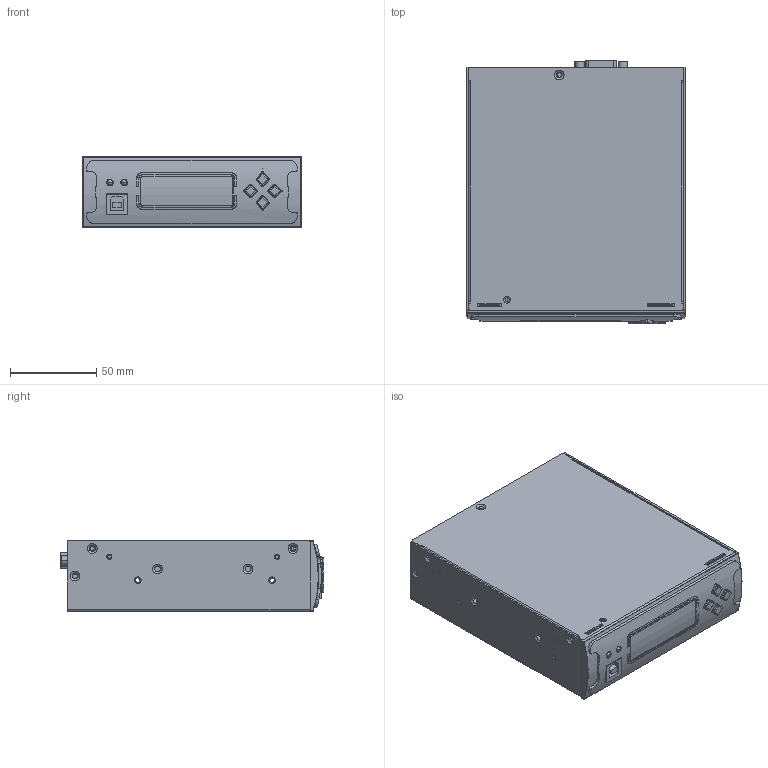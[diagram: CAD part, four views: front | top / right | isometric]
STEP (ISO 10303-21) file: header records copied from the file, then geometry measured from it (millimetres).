
FILE_DESCRIPTION(('Creo Elements/Direct Modeling STEP Export'),'2;1');
FILE_NAME('RCP-CMU1.stp','2016-02-03T15:56:53',(''),(''),'PTC Creo Elements/Direct Modeling STEP processor for AP214 (Solid Model)','PTC Creo Elements/Direct Modeling 19.0 09-May-2014 (C) Parametric Technology GmbH','');
FILE_SCHEMA(('AUTOMOTIVE_DESIGN { 1 0 10303 214 1 1 1 1 }'));
Length unit declared in the file: millimetre
Products named in the file (28): PUSH; lens.stp.1; push.stp; PCB.1.1; JS100107.1.1; PCB.1; ÝÝ£sˆˋ3; pin; pin.1; hs112.1; 9727R_PCB; ÝÝ£sˆˋ2; ÝÝ´ŸCSE.2; ÝÝ´ŸCSE; M3-10Lê°˜W.1.1.1.1.1.1.1.2.1.1.1.3.1.1; ˋ°Ûy; âÈÏJÊO; a5; p1.5; p1.4; p1.3; p1.2; p1.1; 8.2.1.1.1.1.1.1.1; p1; ÝÝ´Ÿ1; ÝÝ´Ÿƒ¼; RCP-CMU
Assembly tree (32 placements, depth 5):
  RCP-CMU
    ÝÝ´Ÿƒ¼
      ÝÝ´Ÿ1
        p1
        8.2.1.1.1.1.1.1.1
        p1.1
        p1.2
        p1.3
        p1.4
        p1.5
      a5
        âÈÏJÊO
      ˋ°Ûy
        M3-10Lê°˜W.1.1.1.1.1.1.1.2.1.1.1.3.1.1  x6
        ÝÝ´ŸCSE
        ÝÝ´ŸCSE.2
      ÝÝ£sˆˋ2
        9727R_PCB
        hs112.1
          pin.1
          pin
      ÝÝ£sˆˋ3
        PCB.1
        JS100107.1.1
        PCB.1.1
    push.stp
      lens.stp.1
      PUSH
Bounding box: 127 x 153.01 x 41 mm (x, y, z)
Volume: 129064.8 mm3; surface area: 192469.4 mm2
Topology: 20 solids, 20 shells, 1810 faces, 4712 edges, 3018 vertices
Faces by surface type: plane 1063, cylinder 461, cone 94, bspline 91, torus 72, sphere 28, extrusion 1
Entity records: 64690 total; most frequent: CARTESIAN_POINT 22095, ORIENTED_EDGE 9196, DIRECTION 7424, EDGE_CURVE 4598, VERTEX_POINT 2958, VECTOR 2868, LINE 2867, AXIS2_PLACEMENT_3D 2278
